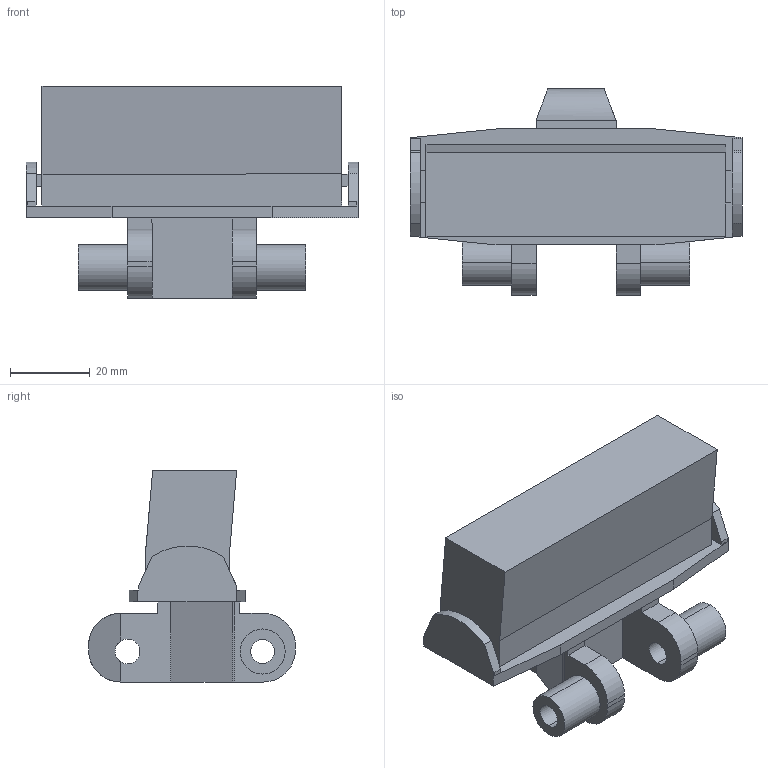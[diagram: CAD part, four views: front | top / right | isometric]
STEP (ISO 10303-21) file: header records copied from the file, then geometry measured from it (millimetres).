
FILE_DESCRIPTION (( 'STEP AP214' ), '1' );
FILE_NAME ('FMWT-5C.STEP', '2011-07-06T07:41:10', ( '.' ), ( '' ), 'SwSTEP 2.0', 'SolidWorks 2010', '' );
FILE_SCHEMA (( 'AUTOMOTIVE_DESIGN' ));
Length unit declared in the file: millimetre
Products named in the file (1): FMWT-5C
Bounding box: 83 x 51.7 x 53 mm (x, y, z)
Volume: 71529.3 mm3; surface area: 17994.9 mm2
Topology: 1 solids, 1 shells, 80 faces, 224 edges, 148 vertices
Faces by surface type: plane 58, cylinder 22
Entity records: 2612 total; most frequent: CARTESIAN_POINT 471, ORIENTED_EDGE 448, DIRECTION 422, EDGE_CURVE 224, LINE 176, VECTOR 176, VERTEX_POINT 148, AXIS2_PLACEMENT_3D 123
